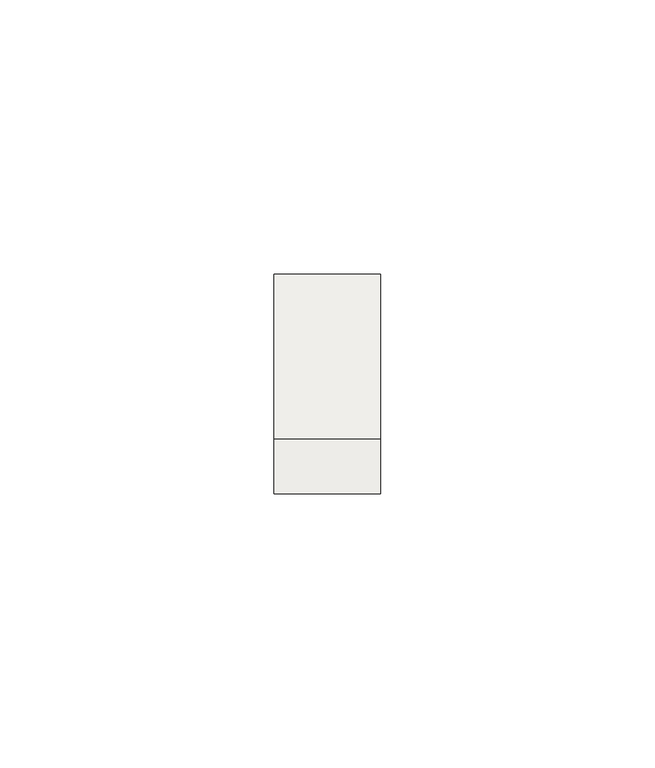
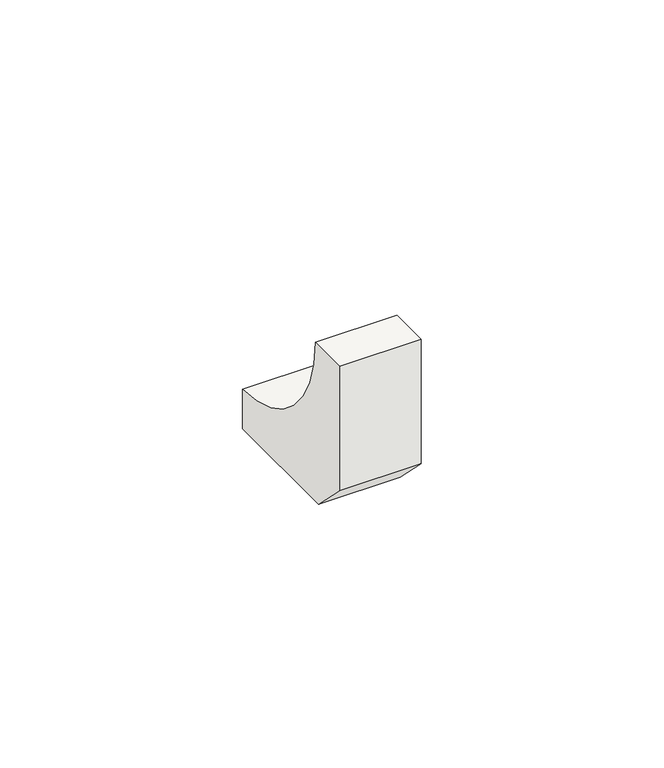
"""IFC4 building model written with IfcOpenShell, lengths in millimetres: slab geometry, ROSA GRES_112 : Pieza 112_Aqua_Plomo_Liso."""

from ifc_helpers import new_model, si_unit, point, frame, frame_2d, origin, place, context, project, spatial, polyline, circle_curve, trimmed, segment, composite_curve, outline, extrude, source, transform, mapped, element, save


def slab_b4716e6a(model_context):
    return source(origin(), model_context, "Body", "SweptSolid", [
        extrude(outline(composite_curve([segment(polyline([(0.0, 8.7114978), (0.0, 40.0), (9.9734114, 40.0)]), True, "CONTINUOUS"), segment(trimmed(circle_curve(frame_2d((39.9955547, 39.9955547)), 30.0221435), [point((9.9734114, 40.0))], [point((40.0, 9.9734114))], True, "CARTESIAN"), True, "CONTINUOUS"), segment(polyline([(40.0, 9.9734114), (40.0, 0.0), (8.7114978, 0.0), (0.0, 8.7114978)]), True, "CONTINUOUS")], self_intersect=False)), frame((0.0, 0.0, 0.0), z_axis=(1.0, 0.0, 0.0), x_axis=(0.0, 1.0, 0.0)), (0.0, 0.0, 1.0), 19.4192524),
    ])


if __name__ == "__main__":
    model = new_model("IFC4")
    model_context = context("Model", 3, world=origin())
    ifc_project = project(units=[si_unit("LENGTHUNIT", "METRE", prefix="MILLI")], contexts=[model_context])
    site = spatial("IfcSite", under=ifc_project)
    building = spatial("IfcBuilding", under=site)
    placement = place(None, origin())
    slab_shape = slab_b4716e6a(model_context)
    element("IfcSlab", 1, ObjectType="ROSA GRES_112 : Pieza 112_Aqua_Plomo_Liso", at=placement, inside=building, context=model_context, shape_type="MappedRepresentation", body=[
        mapped(slab_shape, transform((0.0, 0.0, 0.0), x_axis=(1.0, 0.0, 0.0), y_axis=(0.0, 1.0, 0.0), z_axis=(0.0, 0.0, 1.0))),
    ])
    save(model, "model.ifc")
